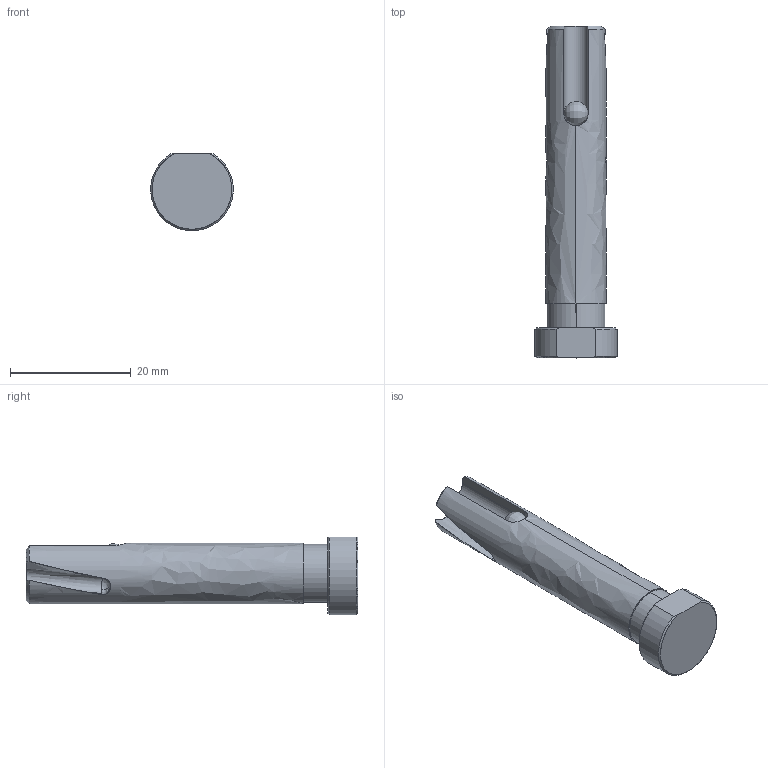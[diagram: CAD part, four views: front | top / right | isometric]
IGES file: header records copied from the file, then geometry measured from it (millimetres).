
Start section: SolidWorks IGES file using analytic representation for surfaces
Global section: file name: G:\Dropbox (Almo)\XPS 8700\Documents\Almo\SolidWorks Files\New Products (2018)\EGCP\Finished Parts\IGES\EGCP-10x50mm (2-Gate-120).IGS; native system: SolidWorks 2014; preprocessor: SolidWorks 2014; author: Victor; date: 180806.135748; units: millimetre
Bounding box: 13.66 x 55 x 12.85 mm (x, y, z)
Surface area: 2320 mm2 (no closed solid volume)
Topology: 0 solids, 0 shells, 33 faces, 518 edges, 516 vertices
Faces by surface type: bspline 17, revolution 16
